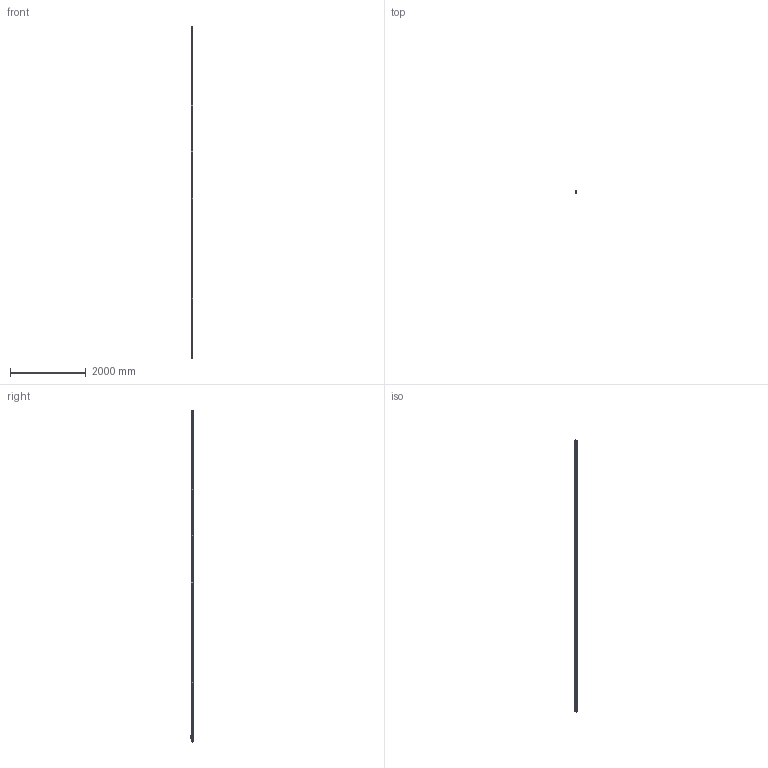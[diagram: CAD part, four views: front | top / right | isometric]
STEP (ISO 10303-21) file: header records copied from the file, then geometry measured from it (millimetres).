
FILE_DESCRIPTION(('Creo Elements/Direct Modeling STEP Export'),'2;1');
FILE_NAME('L-84.stp','2011-11-29T11:51:31',(''),(''),'Creo Elements/Direct Modeling STEP processor for AP214 (Solid Model)','Creo Elements/Direct Modeling 17.0C 05-Feb-2011 (C) Parametric Technology GmbH','');
FILE_SCHEMA(('AUTOMOTIVE_DESIGN { 1 0 10303 214 1 1 1 1 }'));
Length unit declared in the file: millimetre
Products named in the file (5): Modulos_intermedio_(FL-14).2.2; Modulo_izq_(L-KT); CABEZA; Modulo_der_(14-ET); L-84
Assembly tree (7 placements, depth 2):
  L-84
    Modulo_der_(14-ET)
    CABEZA
    Modulos_intermedio_(FL-14).2.2  x4
    Modulo_izq_(L-KT)
Bounding box: 51.5 x 87.95 x 8749.1 mm (x, y, z)
Volume: 17999589.7 mm3; surface area: 2610830.6 mm2
Topology: 28 solids, 96 shells, 5051 faces, 13947 edges, 8961 vertices
Faces by surface type: cylinder 2228, plane 2015, cone 362, torus 227, bspline 143, extrusion 50, sphere 26
Entity records: 127083 total; most frequent: CARTESIAN_POINT 36672, ORIENTED_EDGE 19098, DIRECTION 17028, EDGE_CURVE 9529, VERTEX_POINT 6175, AXIS2_PLACEMENT_3D 6035, VECTOR 4958, LINE 4938
